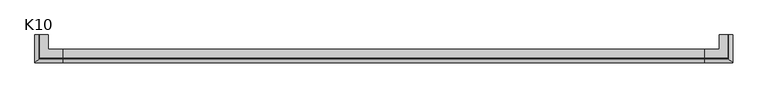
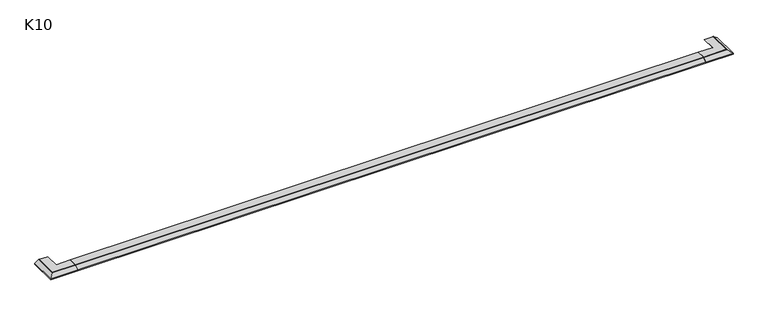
"""IFC4 building model written with IfcOpenShell, lengths in millimetres: proxy geometry, K10 Profil okapowy prosty bez rynny : K10."""

from ifc_helpers import new_model, si_unit, frame, origin, place, context, project, spatial, polyline, outline, extrude, faceted_brep, source, transform, mapped, element, save


def k10_cc2a976c(model_context):
    return source(origin(), model_context, "Body", "SolidModel", [
        faceted_brep([(4830.0010544, -1.25, -3.0), (4830.0010544, -1.25, 0.0), (4830.0010544, 0.0, 0.0), (4830.0010544, 0.0, -3.0), (4830.0010544, 65.0, -3.0), (4830.0010544, 65.0, -4.25), (4830.0010544, 0.0, -4.25), (4830.0010544, 0.0, -7.25), (4830.0010544, -1.25, -7.25), (4830.0010544, -1.25, -4.4598861), (4830.0010544, -30.0, -21.8057194), (4830.0010544, -30.0, -29.17), (4830.0010544, -31.25, -30.42), (4830.0010544, -31.25, -21.1), (5031.2510544, -31.25, -21.1), (5001.2510544, -1.25, -3.0), (5031.2510544, -31.25, -30.42), (5030.0010544, -30.0, -29.17), (5030.0010544, -30.0, -21.8057194), (5001.2510544, -1.25, -4.4598861), (5001.2510544, -1.25, -7.25), (5000.0010544, 0.0, -7.25), (5000.0010544, 170.0, -7.25), (5001.2510544, 170.0, -7.25), (5000.0010544, 0.0, -4.25), (4935.0010544, 65.0, -4.25), (4935.0010544, 170.0, -4.25), (5000.0010544, 170.0, -4.25), (4935.0010544, 65.0, -3.0), (5000.0010544, 0.0, -3.0), (5000.0010544, 170.0, -3.0), (4935.0010544, 170.0, -3.0), (5000.0010544, 0.0, 0.0), (5001.2510544, -1.25, 0.0), (5001.2510544, 170.0, 0.0), (5000.0010544, 170.0, 0.0), (5001.2510544, 170.0, -3.0), (5031.2510544, 170.0, -21.1), (5031.2510544, 170.0, -30.42), (5030.0010544, 170.0, -29.17), (5030.0010544, 170.0, -21.8057194), (5001.2510544, 170.0, -4.4598861)], [[[0, 1, 2, 3, 4, 5, 6, 7, 8, 9, 10, 11, 12, 13]], [[13, 14, 15, 0]], [[12, 16, 14, 13]], [[11, 17, 16, 12]], [[10, 18, 17, 11]], [[9, 19, 18, 10]], [[8, 20, 19, 9]], [[7, 21, 22, 23, 20, 8]], [[6, 24, 21, 7]], [[5, 25, 26, 27, 24, 6]], [[4, 28, 25, 5]], [[3, 29, 30, 31, 28, 4]], [[2, 32, 29, 3]], [[1, 33, 34, 35, 32, 2]], [[0, 15, 33, 1]], [[36, 37, 38, 39, 40, 41, 23, 22, 27, 26, 31, 30, 35, 34]], [[14, 37, 36, 15]], [[16, 38, 37, 14]], [[17, 39, 38, 16]], [[18, 40, 39, 17]], [[19, 41, 40, 18]], [[20, 23, 41, 19]], [[24, 27, 22, 21]], [[28, 31, 26, 25]], [[32, 35, 30, 29]], [[15, 36, 34, 33]]]),
        faceted_brep([(170.0, -1.25, -3.0), (170.0, -31.25, -21.1), (170.0, -31.25, -30.42), (170.0, -30.0, -29.17), (170.0, -30.0, -21.8057194), (170.0, -1.25, -4.4598861), (170.0, -1.25, -7.25), (170.0, 0.0, -7.25), (170.0, 0.0, -4.25), (170.0, 65.0, -4.25), (170.0, 65.0, -3.0), (170.0, 0.0, -3.0), (170.0, 0.0, 0.0), (170.0, -1.25, 0.0), (-1.25, -1.25, -3.0), (-31.25, -31.25, -21.1), (-31.25, -31.25, -30.42), (-30.0, -30.0, -29.17), (-30.0, -30.0, -21.8057194), (-1.25, -1.25, -4.4598861), (-1.25, -1.25, -7.25), (-1.25, 170.0, -7.25), (0.0, 170.0, -7.25), (0.0, 0.0, -7.25), (0.0, 0.0, -4.25), (0.0, 170.0, -4.25), (65.0, 170.0, -4.25), (65.0, 65.0, -4.25), (65.0, 65.0, -3.0), (65.0, 170.0, -3.0), (0.0, 170.0, -3.0), (0.0, 0.0, -3.0), (0.0, 0.0, 0.0), (0.0, 170.0, 0.0), (-1.25, 170.0, 0.0), (-1.25, -1.25, 0.0), (-1.25, 170.0, -3.0), (-1.25, 170.0, -4.4598861), (-30.0, 170.0, -21.8057194), (-30.0, 170.0, -29.17), (-31.25, 170.0, -30.42), (-31.25, 170.0, -21.1)], [[[0, 1, 2, 3, 4, 5, 6, 7, 8, 9, 10, 11, 12, 13]], [[1, 0, 14, 15]], [[2, 1, 15, 16]], [[3, 2, 16, 17]], [[4, 3, 17, 18]], [[5, 4, 18, 19]], [[6, 5, 19, 20]], [[7, 6, 20, 21, 22, 23]], [[8, 7, 23, 24]], [[9, 8, 24, 25, 26, 27]], [[10, 9, 27, 28]], [[11, 10, 28, 29, 30, 31]], [[12, 11, 31, 32]], [[13, 12, 32, 33, 34, 35]], [[0, 13, 35, 14]], [[36, 34, 33, 30, 29, 26, 25, 22, 21, 37, 38, 39, 40, 41]], [[15, 14, 36, 41]], [[16, 15, 41, 40]], [[17, 16, 40, 39]], [[18, 17, 39, 38]], [[19, 18, 38, 37]], [[20, 19, 37, 21]], [[24, 23, 22, 25]], [[28, 27, 26, 29]], [[32, 31, 30, 33]], [[14, 35, 34, 36]]]),
        extrude(outline(polyline([(-1.25, -3.0), (-1.25, 0.0), (0.0, 0.0), (0.0, -3.0), (65.0, -3.0), (65.0, -4.25), (0.0, -4.25), (0.0, -7.25), (-1.25, -7.25), (-1.25, -4.4598861), (-30.0, -21.8057194), (-30.0, -29.17), (-31.25, -30.42), (-31.25, -21.1), (-1.25, -3.0)])), frame((170.0, 0.0, 0.0), z_axis=(1.0, 0.0, 0.0), x_axis=(0.0, 1.0, 0.0)), (0.0, 0.0, 1.0), 4660.0010544),
    ])


if __name__ == "__main__":
    model = new_model("IFC4")
    model_context = context("Model", 3, world=origin())
    ifc_project = project(units=[si_unit("LENGTHUNIT", "METRE", prefix="MILLI")], contexts=[model_context])
    site = spatial("IfcSite", under=ifc_project)
    building = spatial("IfcBuilding", under=site)
    placement = place(None, origin())
    k10_shape = k10_cc2a976c(model_context)
    element("IfcBuildingElementProxy", 1, Name="K10 Profil okapowy prosty bez rynny : K10", ObjectType="K10 Profil okapowy prosty bez rynny : K10", at=placement, inside=building, context=model_context, shape_type="MappedRepresentation", body=[
        mapped(k10_shape, transform((0.0, 0.0, 0.0), x_axis=(1.0, 0.0, 0.0), y_axis=(0.0, 1.0, 0.0), z_axis=(0.0, 0.0, 1.0))),
    ])
    save(model, "model.ifc")
